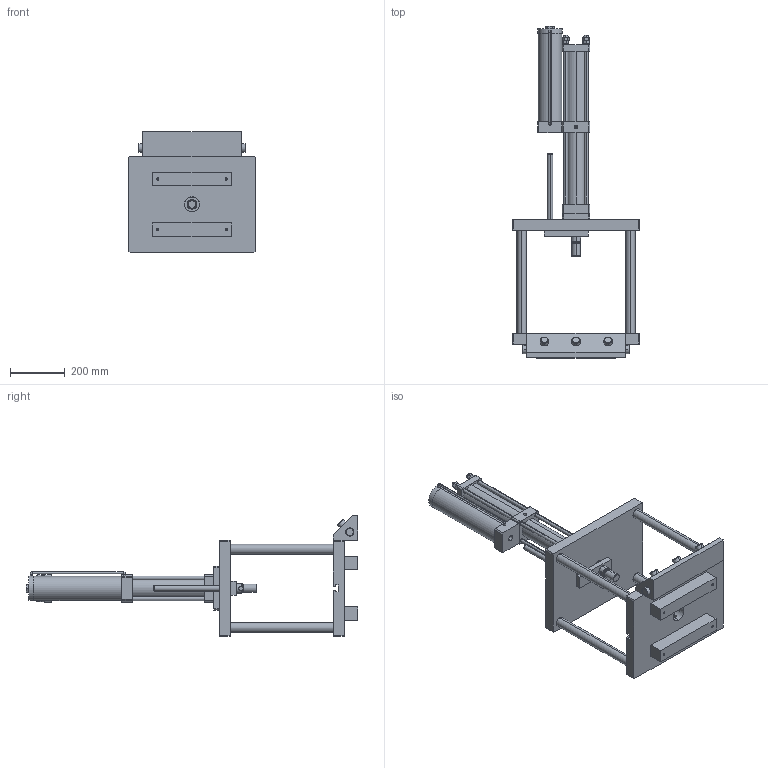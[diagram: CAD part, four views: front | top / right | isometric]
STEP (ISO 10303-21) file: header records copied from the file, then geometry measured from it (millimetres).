
FILE_DESCRIPTION (( 'STEP AP203' ), '1' );
FILE_NAME ('MMH-1T3T.STEP', '2016-03-29T07:55:50', ( 'WIN' ), ( '' ), 'SwSTEP 2.0', 'SolidWorks 2014', '' );
FILE_SCHEMA (( 'CONFIG_CONTROL_DESIGN' ));
Length unit declared in the file: millimetre
Products named in the file (1): MMH-1T3T
Bounding box: 460 x 1208 x 440 mm (x, y, z)
Volume: 20469048.6 mm3; surface area: 1877463 mm2
Topology: 1 solids, 8 shells, 600 faces, 1451 edges, 892 vertices
Faces by surface type: plane 316, cylinder 133, torus 80, cone 47, bspline 24
Entity records: 17871 total; most frequent: CARTESIAN_POINT 3598, DIRECTION 3094, ORIENTED_EDGE 2850, EDGE_CURVE 1425, AXIS2_PLACEMENT_3D 1132, VERTEX_POINT 892, LINE 830, VECTOR 830
